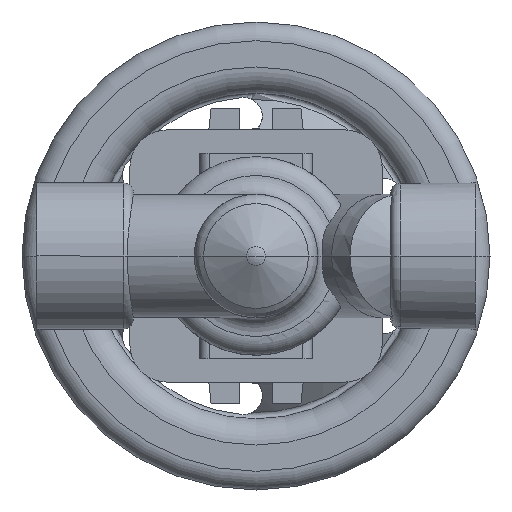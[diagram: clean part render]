
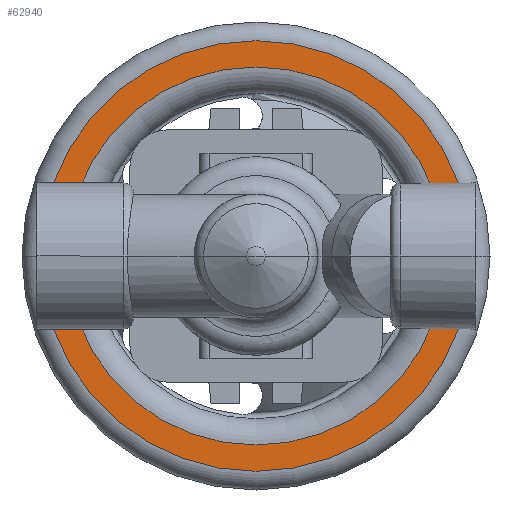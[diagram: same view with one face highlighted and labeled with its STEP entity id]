
A CAD part, front view. The second image highlights one B-rep face of the part: STEP entity #62940.
In plain terms, the highlighted planar face has unit normal (0, -1, 0).
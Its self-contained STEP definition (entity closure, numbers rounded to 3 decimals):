
#62380=CARTESIAN_POINT('',(116.,204.8,0.));
#62390=VERTEX_POINT('',#62380);
#62480=CARTESIAN_POINT('',(1.,204.8,0.));
#62490=VERTEX_POINT('',#62480);
#62520=CARTESIAN_POINT('',(58.5,204.8,0.));
#62530=DIRECTION('',(0.,1.,0.));
#62540=DIRECTION('',(-1.,0.,0.));
#62550=AXIS2_PLACEMENT_3D('',#62520,#62530,#62540);
#62560=CIRCLE('',#62550,57.5);
#62570=EDGE_CURVE('',#62390,#62490,#62560,.T.);
#62690=CARTESIAN_POINT('',(4.5,204.8,0.));
#62700=DIRECTION('',(0.,-1.,0.));
#62710=DIRECTION('',(1.,0.,0.));
#62720=AXIS2_PLACEMENT_3D('',#62690,#62700,#62710);
#62730=PLANE('',#62720);
#62740=EDGE_CURVE('',#62490,#62390,#62560,.T.);
#62750=ORIENTED_EDGE('',*,*,#62740,.F.);
#62760=ORIENTED_EDGE('',*,*,#62570,.F.);
#62770=EDGE_LOOP('',(#62760,#62750));
#62780=FACE_OUTER_BOUND('',#62770,.T.);
#62790=CARTESIAN_POINT('',(58.5,204.8,0.));
#62800=DIRECTION('',(0.,1.,0.));
#62810=DIRECTION('',(-1.,0.,0.));
#62820=AXIS2_PLACEMENT_3D('',#62790,#62800,#62810);
#62830=CIRCLE('',#62820,50.5);
#62840=CARTESIAN_POINT('',(8.,204.8,0.));
#62850=VERTEX_POINT('',#62840);
#62860=CARTESIAN_POINT('',(109.,204.8,0.));
#62870=VERTEX_POINT('',#62860);
#62880=EDGE_CURVE('',#62850,#62870,#62830,.T.);
#62890=ORIENTED_EDGE('',*,*,#62880,.T.);
#62900=EDGE_CURVE('',#62870,#62850,#62830,.T.);
#62910=ORIENTED_EDGE('',*,*,#62900,.T.);
#62920=EDGE_LOOP('',(#62910,#62890));
#62930=FACE_BOUND('',#62920,.T.);
#62940=ADVANCED_FACE('',(#62780,#62930),#62730,.T.);
